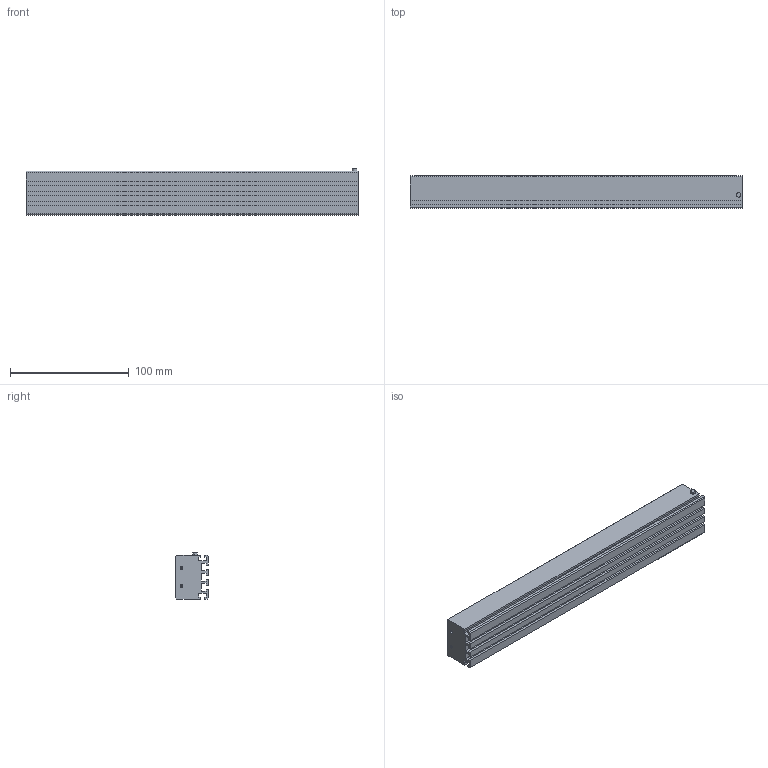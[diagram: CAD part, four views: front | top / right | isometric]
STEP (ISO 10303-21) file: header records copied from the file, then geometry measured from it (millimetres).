
FILE_DESCRIPTION (( 'STEP AP203' ), '1' );
FILE_NAME ('LRD-B6-280.STEP', '2022-08-25T05:33:27', ( 'TNT' ), ( '' ), 'SwSTEP 2.0', 'SolidWorks 2018', '' );
FILE_SCHEMA (( 'CONFIG_CONTROL_DESIGN' ));
Length unit declared in the file: millimetre
Products named in the file (1): LRD-B6-280
Bounding box: 280 x 27.7 x 39.1 mm (x, y, z)
Volume: 238039 mm3; surface area: 62115 mm2
Topology: 1 solids, 1 shells, 74 faces, 202 edges, 128 vertices
Faces by surface type: plane 56, cylinder 10, cone 8
Entity records: 2323 total; most frequent: CARTESIAN_POINT 397, ORIENTED_EDGE 388, DIRECTION 364, EDGE_CURVE 194, VECTOR 174, LINE 174, VERTEX_POINT 128, AXIS2_PLACEMENT_3D 95
